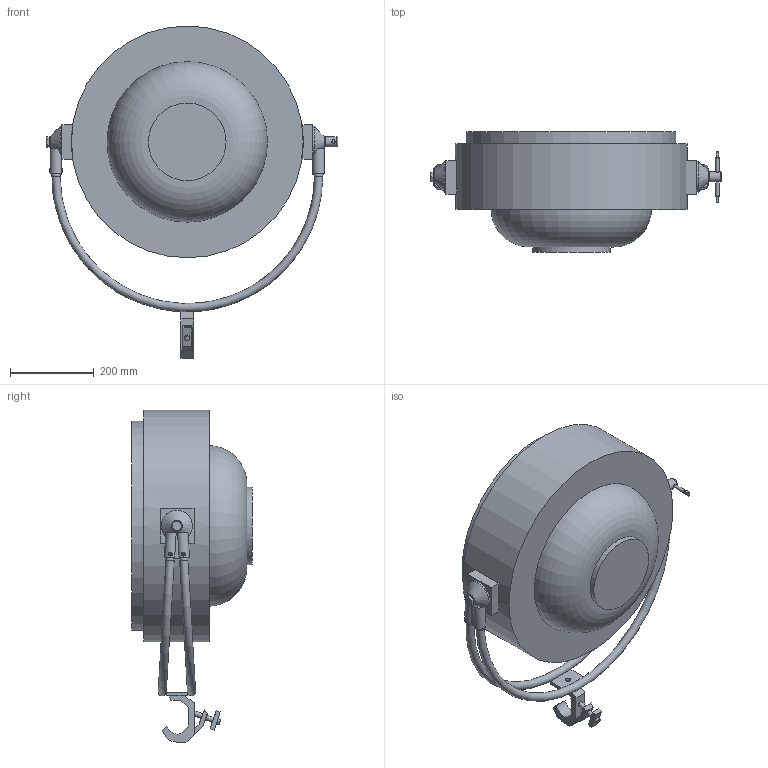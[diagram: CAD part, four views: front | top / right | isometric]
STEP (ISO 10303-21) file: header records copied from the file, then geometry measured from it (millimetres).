
FILE_DESCRIPTION(/* description */ ('Unknown'),/* implementation_level */ '2;1');
FILE_NAME(/* name */ '3D_Patt2013',/* time_stamp */ '2020-02-21T10:11:32+01:00',/* author */ ('Unknown'),/* organization */ ('Unknown'),/* preprocessor_version */ 'ST-DEVELOPER v16.7',/* originating_system */ 'Solid Edge',/* authorisation */ 'Unknown');
FILE_SCHEMA (('AUTOMOTIVE_DESIGN {1 0 10303 214 3 1 1}'));
Length unit declared in the file: millimetre
Products named in the file (10): 3D_Patt2013; 17030931 Aretace otoèná klièka; 17030931 Aretace otoèná šroub; Clamp Doughty Slimline QT; 17041335 Z嫛鮀; 17030931 Aretace otoèná otoèná èást; 17040xxx Trubka z嫛鮀u; 18060235 Nýt trhací D5xL12 Fe; 11015335 Støed pro závìs; Hlava
Assembly tree (18 placements, depth 3):
  3D_Patt2013
    17030931 Aretace otoèná klièka
    17030931 Aretace otoèná šroub
    Clamp Doughty Slimline QT
    17041335 Z嫛鮀
      17030931 Aretace otoèná otoèná èást  x2
      17040xxx Trubka z嫛鮀u  x2
      18060235 Nýt trhací D5xL12 Fe  x8
      11015335 Støed pro závìs
    Hlava
Bounding box: 694.9 x 287.24 x 791.78 mm (x, y, z)
Volume: 52652613 mm3; surface area: 1233610.8 mm2
Topology: 17 solids, 17 shells, 258 faces, 588 edges, 385 vertices
Faces by surface type: plane 127, cylinder 89, torus 30, cone 12
Full cylindrical faces by diameter (mm): 3 x8, 5 x16, 5.2 x8, 8 x2, 9.5 x8, 10 x4, 12 x6, 12.5 x2, 13 x1, 17.5 x4, 19.2 x4, 19.5 x4, 23 x2, 24 x1, 28 x2, 42 x2, 184.95 x1, 498.526 x1, 552.783 x1
Entity records: 5085 total; most frequent: CARTESIAN_POINT 1040, DIRECTION 707, ORIENTED_EDGE 610, EDGE_CURVE 305, AXIS2_PLACEMENT_3D 279, EDGE_LOOP 254, FACE_BOUND 254, VERTEX_POINT 227
